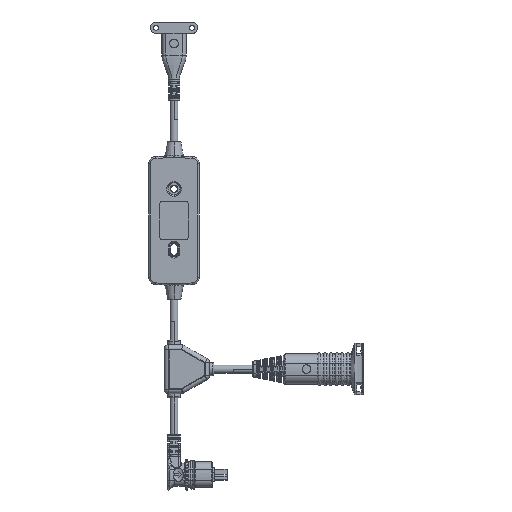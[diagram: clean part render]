
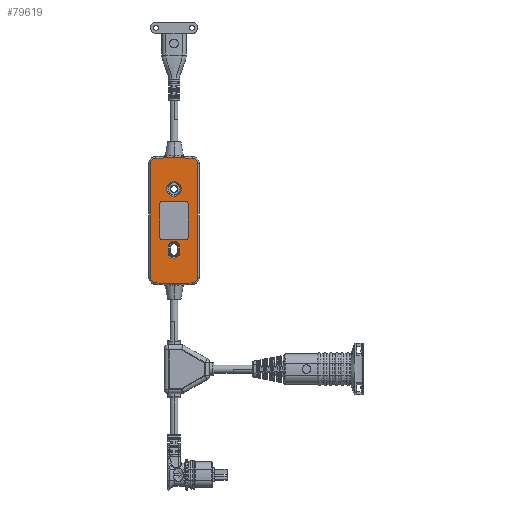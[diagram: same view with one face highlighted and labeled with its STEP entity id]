
A CAD part, front view. The second image highlights one B-rep face of the part: STEP entity #79619.
In plain terms, the highlighted planar face has unit normal (0, -1, 0).
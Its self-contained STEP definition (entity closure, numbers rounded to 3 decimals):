
#20787=CARTESIAN_POINT('',(0.,-7.75,-22.));
#20788=DIRECTION('',(0.,1.,0.));
#20789=DIRECTION('',(1.,0.,0.));
#20790=AXIS2_PLACEMENT_3D('',#20787,#20788,#20789);
#20792=DIRECTION('',(0.,0.,-1.));
#20793=VECTOR('',#20792,3.6);
#20794=CARTESIAN_POINT('',(4.118,-7.75,-18.4));
#20795=LINE('',#20794,#20793);
#20796=CARTESIAN_POINT('',(0.,-7.75,-18.4));
#20797=DIRECTION('',(0.,1.,0.));
#20798=DIRECTION('',(-1.,0.,0.));
#20799=AXIS2_PLACEMENT_3D('',#20796,#20797,#20798);
#20801=DIRECTION('',(0.,0.,1.));
#20802=VECTOR('',#20801,3.6);
#20803=CARTESIAN_POINT('',(-4.118,-7.75,-22.));
#20804=LINE('',#20803,#20802);
#20805=CARTESIAN_POINT('',(0.,-7.75,22.));
#20806=DIRECTION('',(0.,1.,0.));
#20807=DIRECTION('',(0.,0.,-1.));
#20808=AXIS2_PLACEMENT_3D('',#20805,#20806,#20807);
#20810=CARTESIAN_POINT('',(0.,-7.75,22.));
#20811=DIRECTION('',(0.,1.,0.));
#20812=DIRECTION('',(0.,0.,1.));
#20813=AXIS2_PLACEMENT_3D('',#20810,#20811,#20812);
#20815=DIRECTION('',(0.,0.,1.));
#20816=VECTOR('',#20815,79.162);
#20817=CARTESIAN_POINT('',(16.382,-7.75,-39.581));
#20818=LINE('',#20817,#20816);
#20819=CARTESIAN_POINT('',(12.5,-7.75,-39.581));
#20820=DIRECTION('',(0.,-1.,0.));
#20821=DIRECTION('',(0.017,0.,-1.));
#20822=AXIS2_PLACEMENT_3D('',#20819,#20820,#20821);
#20824=DIRECTION('',(1.,0.,0.017));
#20825=VECTOR('',#20824,12.24);
#20826=CARTESIAN_POINT('',(0.33,-7.75,-43.676));
#20827=LINE('',#20826,#20825);
#20828=CARTESIAN_POINT('',(0.,-7.75,-24.797));
#20829=DIRECTION('',(0.,-1.,0.));
#20830=DIRECTION('',(-0.017,0.,-1.));
#20831=AXIS2_PLACEMENT_3D('',#20828,#20829,#20830);
#20833=DIRECTION('',(1.,0.,-0.017));
#20834=VECTOR('',#20833,12.24);
#20835=CARTESIAN_POINT('',(-12.568,-7.75,-43.462));
#20836=LINE('',#20835,#20834);
#20837=CARTESIAN_POINT('',(-12.5,-7.75,-39.581));
#20838=DIRECTION('',(0.,-1.,0.));
#20839=DIRECTION('',(-1.,0.,0.));
#20840=AXIS2_PLACEMENT_3D('',#20837,#20838,#20839);
#20842=DIRECTION('',(0.,0.,-1.));
#20843=VECTOR('',#20842,79.162);
#20844=CARTESIAN_POINT('',(-16.382,-7.75,39.581));
#20845=LINE('',#20844,#20843);
#20846=CARTESIAN_POINT('',(-12.5,-7.75,39.581));
#20847=DIRECTION('',(0.,-1.,0.));
#20848=DIRECTION('',(-0.017,0.,1.));
#20849=AXIS2_PLACEMENT_3D('',#20846,#20847,#20848);
#20851=DIRECTION('',(-1.,0.,-0.017));
#20852=VECTOR('',#20851,12.24);
#20853=CARTESIAN_POINT('',(-0.33,-7.75,43.676));
#20854=LINE('',#20853,#20852);
#20855=CARTESIAN_POINT('',(0.,-7.75,24.797));
#20856=DIRECTION('',(0.,-1.,0.));
#20857=DIRECTION('',(0.017,0.,1.));
#20858=AXIS2_PLACEMENT_3D('',#20855,#20856,#20857);
#20860=DIRECTION('',(-1.,0.,0.017));
#20861=VECTOR('',#20860,12.24);
#20862=CARTESIAN_POINT('',(12.568,-7.75,43.462));
#20863=LINE('',#20862,#20861);
#20864=CARTESIAN_POINT('',(12.5,-7.75,39.581));
#20865=DIRECTION('',(0.,-1.,0.));
#20866=DIRECTION('',(1.,0.,0.));
#20867=AXIS2_PLACEMENT_3D('',#20864,#20865,#20866);
#20869=CARTESIAN_POINT('',(-7.6,-7.75,-11.1));
#20870=DIRECTION('',(0.,-1.,0.));
#20871=DIRECTION('',(-1.,0.,0.));
#20872=AXIS2_PLACEMENT_3D('',#20869,#20870,#20871);
#20874=DIRECTION('',(1.,0.,0.));
#20875=VECTOR('',#20874,15.2);
#20876=CARTESIAN_POINT('',(-7.6,-7.75,-13.509));
#20877=LINE('',#20876,#20875);
#20878=CARTESIAN_POINT('',(7.6,-7.75,-11.1));
#20879=DIRECTION('',(0.,-1.,0.));
#20880=DIRECTION('',(0.,0.,-1.));
#20881=AXIS2_PLACEMENT_3D('',#20878,#20879,#20880);
#20883=DIRECTION('',(0.,0.,1.));
#20884=VECTOR('',#20883,22.2);
#20885=CARTESIAN_POINT('',(10.009,-7.75,-11.1));
#20886=LINE('',#20885,#20884);
#20887=CARTESIAN_POINT('',(7.6,-7.75,11.1));
#20888=DIRECTION('',(0.,-1.,0.));
#20889=DIRECTION('',(1.,0.,0.));
#20890=AXIS2_PLACEMENT_3D('',#20887,#20888,#20889);
#20892=DIRECTION('',(-1.,0.,0.));
#20893=VECTOR('',#20892,15.2);
#20894=CARTESIAN_POINT('',(7.6,-7.75,13.509));
#20895=LINE('',#20894,#20893);
#20896=CARTESIAN_POINT('',(-7.6,-7.75,11.1));
#20897=DIRECTION('',(0.,-1.,0.));
#20898=DIRECTION('',(0.,0.,1.));
#20899=AXIS2_PLACEMENT_3D('',#20896,#20897,#20898);
#20901=DIRECTION('',(0.,0.,-1.));
#20902=VECTOR('',#20901,22.2);
#20903=CARTESIAN_POINT('',(-10.009,-7.75,11.1));
#20904=LINE('',#20903,#20902);
#43417=CARTESIAN_POINT('',(-10.009,-7.75,-11.1));
#43418=CARTESIAN_POINT('',(-7.6,-7.75,-13.509));
#43419=VERTEX_POINT('',#43417);
#43420=VERTEX_POINT('',#43418);
#43421=CARTESIAN_POINT('',(7.6,-7.75,-13.509));
#43422=VERTEX_POINT('',#43421);
#43423=CARTESIAN_POINT('',(10.009,-7.75,-11.1));
#43424=VERTEX_POINT('',#43423);
#43425=CARTESIAN_POINT('',(10.009,-7.75,11.1));
#43426=VERTEX_POINT('',#43425);
#43427=CARTESIAN_POINT('',(7.6,-7.75,13.509));
#43428=VERTEX_POINT('',#43427);
#43429=CARTESIAN_POINT('',(-7.6,-7.75,13.509));
#43430=VERTEX_POINT('',#43429);
#43431=CARTESIAN_POINT('',(-10.009,-7.75,11.1));
#43432=VERTEX_POINT('',#43431);
#43441=CARTESIAN_POINT('',(16.382,-7.75,-39.581));
#43442=CARTESIAN_POINT('',(16.382,-7.75,39.581));
#43443=VERTEX_POINT('',#43441);
#43444=VERTEX_POINT('',#43442);
#43449=CARTESIAN_POINT('',(-16.382,-7.75,39.581));
#43450=CARTESIAN_POINT('',(-16.382,-7.75,-39.581));
#43451=VERTEX_POINT('',#43449);
#43452=VERTEX_POINT('',#43450);
#43457=CARTESIAN_POINT('',(0.,-7.75,16.982));
#43458=CARTESIAN_POINT('',(0.,-7.75,27.018));
#43459=VERTEX_POINT('',#43457);
#43460=VERTEX_POINT('',#43458);
#43465=CARTESIAN_POINT('',(4.118,-7.75,-22.));
#43466=CARTESIAN_POINT('',(-4.118,-7.75,-22.));
#43467=VERTEX_POINT('',#43465);
#43468=VERTEX_POINT('',#43466);
#43473=CARTESIAN_POINT('',(-4.118,-7.75,-18.4));
#43474=VERTEX_POINT('',#43473);
#43477=CARTESIAN_POINT('',(4.118,-7.75,-18.4));
#43478=VERTEX_POINT('',#43477);
#43521=CARTESIAN_POINT('',(12.568,-7.75,43.462));
#43522=CARTESIAN_POINT('',(0.33,-7.75,43.676));
#43523=VERTEX_POINT('',#43521);
#43524=VERTEX_POINT('',#43522);
#43529=CARTESIAN_POINT('',(-0.33,-7.75,43.676));
#43530=VERTEX_POINT('',#43529);
#43533=CARTESIAN_POINT('',(-12.568,-7.75,43.462));
#43534=VERTEX_POINT('',#43533);
#43537=CARTESIAN_POINT('',(-12.568,-7.75,-43.462));
#43538=VERTEX_POINT('',#43537);
#43541=CARTESIAN_POINT('',(-0.33,-7.75,-43.676));
#43542=VERTEX_POINT('',#43541);
#43545=CARTESIAN_POINT('',(0.33,-7.75,-43.676));
#43546=VERTEX_POINT('',#43545);
#43549=CARTESIAN_POINT('',(12.568,-7.75,-43.462));
#43550=VERTEX_POINT('',#43549);
#79555=CARTESIAN_POINT('',(0.,-7.75,0.));
#79556=DIRECTION('',(0.,1.,0.));
#79557=DIRECTION('',(1.,0.,0.));
#79558=AXIS2_PLACEMENT_3D('',#79555,#79556,#79557);
#79559=PLANE('',#79558);
#79561=ORIENTED_EDGE('',*,*,#79560,.F.);
#79563=ORIENTED_EDGE('',*,*,#79562,.F.);
#79565=ORIENTED_EDGE('',*,*,#79564,.F.);
#79567=ORIENTED_EDGE('',*,*,#79566,.F.);
#79569=ORIENTED_EDGE('',*,*,#79568,.F.);
#79570=ORIENTED_EDGE('',*,*,#79545,.F.);
#79572=ORIENTED_EDGE('',*,*,#79571,.F.);
#79574=ORIENTED_EDGE('',*,*,#79573,.F.);
#79576=ORIENTED_EDGE('',*,*,#79575,.F.);
#79578=ORIENTED_EDGE('',*,*,#79577,.F.);
#79580=ORIENTED_EDGE('',*,*,#79579,.F.);
#79582=ORIENTED_EDGE('',*,*,#79581,.F.);
#79583=EDGE_LOOP('',(#79561,#79563,#79565,#79567,#79569,#79570,#79572,#79574,
#79576,#79578,#79580,#79582));
#79584=FACE_OUTER_BOUND('',#79583,.F.);
#79586=ORIENTED_EDGE('',*,*,#79585,.F.);
#79588=ORIENTED_EDGE('',*,*,#79587,.F.);
#79589=EDGE_LOOP('',(#79586,#79588));
#79590=FACE_BOUND('',#79589,.F.);
#79592=ORIENTED_EDGE('',*,*,#79591,.F.);
#79594=ORIENTED_EDGE('',*,*,#79593,.F.);
#79596=ORIENTED_EDGE('',*,*,#79595,.F.);
#79598=ORIENTED_EDGE('',*,*,#79597,.F.);
#79599=EDGE_LOOP('',(#79592,#79594,#79596,#79598));
#79600=FACE_BOUND('',#79599,.F.);
#79602=ORIENTED_EDGE('',*,*,#79601,.T.);
#79604=ORIENTED_EDGE('',*,*,#79603,.T.);
#79606=ORIENTED_EDGE('',*,*,#79605,.T.);
#79608=ORIENTED_EDGE('',*,*,#79607,.T.);
#79610=ORIENTED_EDGE('',*,*,#79609,.T.);
#79612=ORIENTED_EDGE('',*,*,#79611,.T.);
#79614=ORIENTED_EDGE('',*,*,#79613,.T.);
#79616=ORIENTED_EDGE('',*,*,#79615,.T.);
#79617=EDGE_LOOP('',(#79602,#79604,#79606,#79608,#79610,#79612,#79614,#79616));
#79618=FACE_BOUND('',#79617,.F.);
#79619=ADVANCED_FACE('',(#79584,#79590,#79600,#79618),#79559,.F.);
#20791=CIRCLE('',#20790,4.118);
#20800=CIRCLE('',#20799,4.118);
#20809=CIRCLE('',#20808,5.018);
#20814=CIRCLE('',#20813,5.018);
#20823=CIRCLE('',#20822,3.882);
#20832=CIRCLE('',#20831,18.882);
#20841=CIRCLE('',#20840,3.882);
#20850=CIRCLE('',#20849,3.882);
#20859=CIRCLE('',#20858,18.882);
#20868=CIRCLE('',#20867,3.882);
#20873=CIRCLE('',#20872,2.409);
#20882=CIRCLE('',#20881,2.409);
#20891=CIRCLE('',#20890,2.409);
#20900=CIRCLE('',#20899,2.409);
#79545=EDGE_CURVE('',#43452,#43538,#20841,.T.);
#79560=EDGE_CURVE('',#43443,#43444,#20818,.T.);
#79562=EDGE_CURVE('',#43550,#43443,#20823,.T.);
#79564=EDGE_CURVE('',#43546,#43550,#20827,.T.);
#79566=EDGE_CURVE('',#43542,#43546,#20832,.T.);
#79568=EDGE_CURVE('',#43538,#43542,#20836,.T.);
#79571=EDGE_CURVE('',#43451,#43452,#20845,.T.);
#79573=EDGE_CURVE('',#43534,#43451,#20850,.T.);
#79575=EDGE_CURVE('',#43530,#43534,#20854,.T.);
#79577=EDGE_CURVE('',#43524,#43530,#20859,.T.);
#79579=EDGE_CURVE('',#43523,#43524,#20863,.T.);
#79581=EDGE_CURVE('',#43444,#43523,#20868,.T.);
#79585=EDGE_CURVE('',#43459,#43460,#20809,.T.);
#79587=EDGE_CURVE('',#43460,#43459,#20814,.T.);
#79591=EDGE_CURVE('',#43467,#43468,#20791,.T.);
#79593=EDGE_CURVE('',#43478,#43467,#20795,.T.);
#79595=EDGE_CURVE('',#43474,#43478,#20800,.T.);
#79597=EDGE_CURVE('',#43468,#43474,#20804,.T.);
#79601=EDGE_CURVE('',#43419,#43420,#20873,.T.);
#79603=EDGE_CURVE('',#43420,#43422,#20877,.T.);
#79605=EDGE_CURVE('',#43422,#43424,#20882,.T.);
#79607=EDGE_CURVE('',#43424,#43426,#20886,.T.);
#79609=EDGE_CURVE('',#43426,#43428,#20891,.T.);
#79611=EDGE_CURVE('',#43428,#43430,#20895,.T.);
#79613=EDGE_CURVE('',#43430,#43432,#20900,.T.);
#79615=EDGE_CURVE('',#43432,#43419,#20904,.T.);
